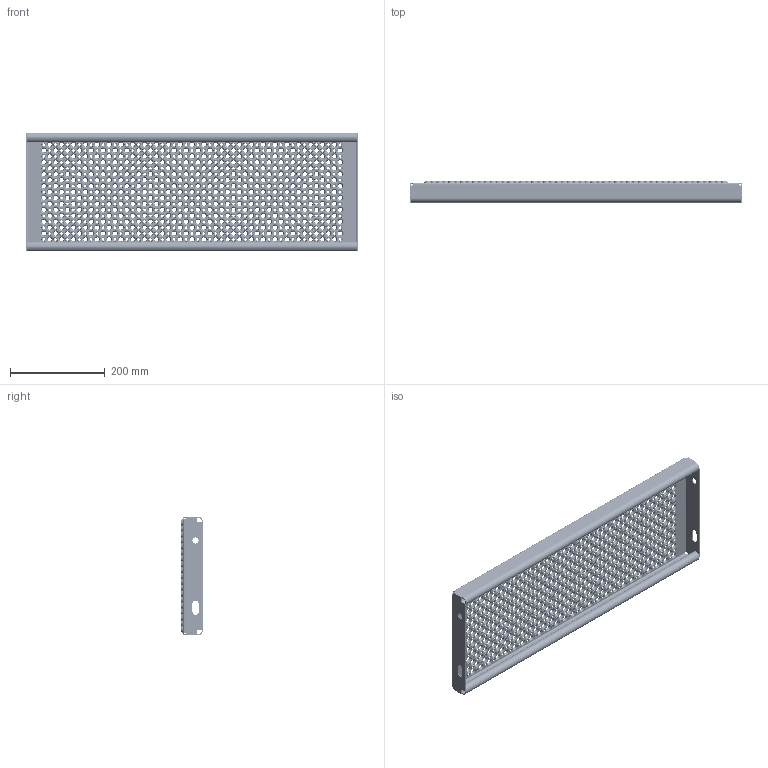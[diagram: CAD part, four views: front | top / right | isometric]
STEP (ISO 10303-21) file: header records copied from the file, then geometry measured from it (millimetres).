
FILE_DESCRIPTION (( 'STEP AP214' ), '1' );
FILE_NAME ('OPTIMO-Tread-Achil-O2-700x250x45x2-st240-F100310100.STEP', '2021-03-16T10:51:15', ( '' ), ( '' ), 'SwSTEP 2.0', 'SolidWorks 2021', '' );
FILE_SCHEMA (( 'AUTOMOTIVE_DESIGN' ));
Length unit declared in the file: millimetre
Products named in the file (1): OPTIMO-Tread-Achil-O2-700x250x45x2-st240-F100310100
Bounding box: 700 x 45 x 250 mm (x, y, z)
Volume: 605347 mm3; surface area: 657652.6 mm2
Topology: 1 solids, 1 shells, 9772 faces, 25394 edges, 15624 vertices
Faces by surface type: cone 5814, torus 3876, plane 38, cylinder 36, bspline 8
Entity records: 311056 total; most frequent: DIRECTION 64328, CARTESIAN_POINT 51383, ORIENTED_EDGE 50788, AXIS2_PLACEMENT_3D 29201, EDGE_CURVE 25394, CIRCLE 19436, VERTEX_POINT 15624, EDGE_LOOP 11718
